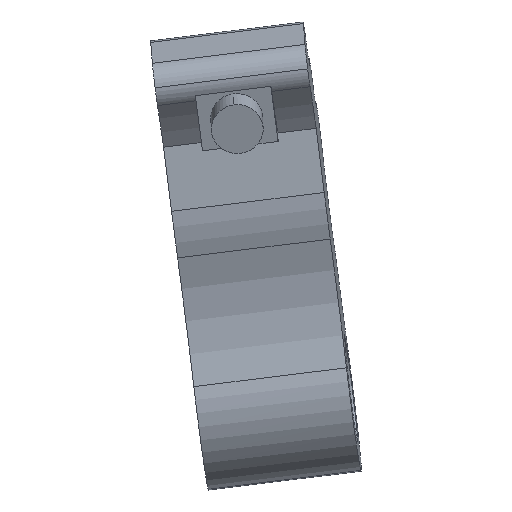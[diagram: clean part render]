
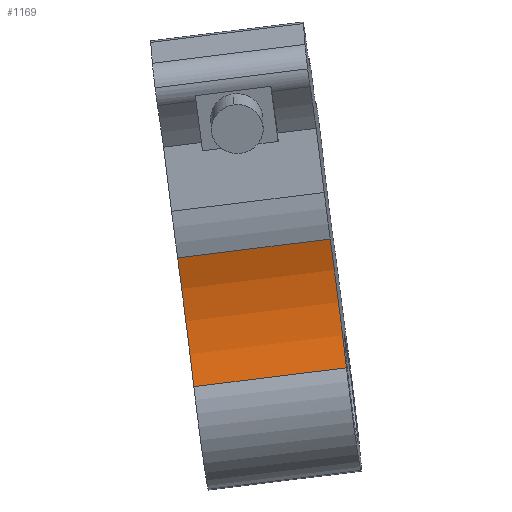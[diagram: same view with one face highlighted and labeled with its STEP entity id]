
A CAD part, front view. The second image highlights one B-rep face of the part: STEP entity #1169.
In plain terms, the highlighted cylindrical face has radius 7.5 mm (diameter 15 mm), a partial arc.
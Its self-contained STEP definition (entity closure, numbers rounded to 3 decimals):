
#1142=AXIS2_PLACEMENT_3D('Cylinder Axis2P3D',#1139,#1140,#1141) ;
#1155=AXIS2_PLACEMENT_3D('Circle Axis2P3D',#1153,#1154,$) ;
#1160=AXIS2_PLACEMENT_3D('Circle Axis2P3D',#1158,#1159,$) ;
#1108=CARTESIAN_POINT('Vertex',(1116.179,-921.777,264.429)) ;
#1125=CARTESIAN_POINT('Vertex',(1122.077,-921.916,265.159)) ;
#1129=CARTESIAN_POINT('Control Point',(1122.077,-921.916,265.159)) ;
#1130=CARTESIAN_POINT('Control Point',(1116.179,-921.777,264.429)) ;
#1139=CARTESIAN_POINT('Axis2P3D Location',(1121.166,-929.164,266.937)) ;
#1144=CARTESIAN_POINT('Line Origine',(1120.938,-922.353,270.07)) ;
#1148=CARTESIAN_POINT('Vertex',(1115.553,-922.226,269.403)) ;
#1150=CARTESIAN_POINT('Vertex',(1121.45,-922.365,270.134)) ;
#1153=CARTESIAN_POINT('Axis2P3D Location',(1115.78,-929.036,266.27)) ;
#1158=CARTESIAN_POINT('Axis2P3D Location',(1121.678,-929.176,267.)) ;
#1140=DIRECTION('Axis2P3D Direction',(-0.992,0.023,-0.123)) ;
#1141=DIRECTION('Axis2P3D XDirection',(-0.044,0.856,0.515)) ;
#1145=DIRECTION('Vector Direction',(-0.992,0.023,-0.123)) ;
#1154=DIRECTION('Axis2P3D Direction',(-0.992,0.023,-0.123)) ;
#1159=DIRECTION('Axis2P3D Direction',(-0.992,0.023,-0.123)) ;
#1146=VECTOR('Line Direction',#1145,1.) ;
#1164=ORIENTED_EDGE('',*,*,#1152,.F.) ;
#1165=ORIENTED_EDGE('',*,*,#1157,.F.) ;
#1166=ORIENTED_EDGE('',*,*,#1131,.F.) ;
#1167=ORIENTED_EDGE('',*,*,#1162,.T.) ;
#1169=ADVANCED_FACE('\X2\4F5379EF\X0\.1',(#1168),#1143,.F.) ;
#1128=B_SPLINE_CURVE_WITH_KNOTS('',1,(#1129,#1130),.UNSPECIFIED.,.F.,.U.,(2,2),(-2.972,2.972),.UNSPECIFIED.) ;
#1156=CIRCLE('generated circle',#1155,7.5) ;
#1161=CIRCLE('generated circle',#1160,7.5) ;
#1143=CYLINDRICAL_SURFACE('generated cylinder',#1142,7.5) ;
#1131=EDGE_CURVE('',#1126,#1109,#1128,.T.) ;
#1152=EDGE_CURVE('',#1149,#1151,#1147,.F.) ;
#1157=EDGE_CURVE('',#1109,#1149,#1156,.F.) ;
#1162=EDGE_CURVE('',#1126,#1151,#1161,.F.) ;
#1163=EDGE_LOOP('',(#1164,#1165,#1166,#1167)) ;
#1168=FACE_OUTER_BOUND('',#1163,.T.) ;
#1147=LINE('Line',#1144,#1146) ;
#1109=VERTEX_POINT('',#1108) ;
#1126=VERTEX_POINT('',#1125) ;
#1149=VERTEX_POINT('',#1148) ;
#1151=VERTEX_POINT('',#1150) ;
